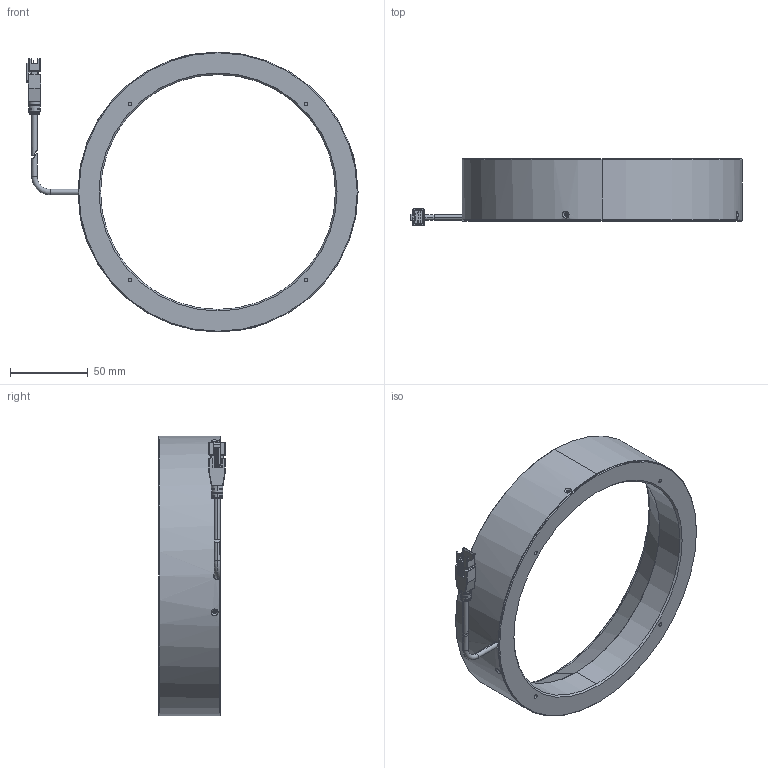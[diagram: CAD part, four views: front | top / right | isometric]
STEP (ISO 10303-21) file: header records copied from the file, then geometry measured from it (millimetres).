
FILE_DESCRIPTION (( 'STEP AP203' ), '1' );
FILE_NAME ('CST-FRS180-¼òÒ×3DÍ¼.STEP', '2021-07-21T02:16:28', ( '' ), ( '' ), 'SwSTEP 2.0', 'SolidWorks 2018', '' );
FILE_SCHEMA (( 'CONFIG_CONTROL_DESIGN' ));
Length unit declared in the file: millimetre
Products named in the file (1): CST-FRS180-潠眢3D芞
Bounding box: 213.43 x 42.85 x 180 mm (x, y, z)
Volume: 185478.6 mm3; surface area: 134671.8 mm2
Topology: 6 solids, 6 shells, 330 faces, 815 edges, 495 vertices
Faces by surface type: plane 148, cylinder 113, cone 32, bspline 29, torus 8
Entity records: 10999 total; most frequent: CARTESIAN_POINT 3295, ORIENTED_EDGE 1582, DIRECTION 1582, EDGE_CURVE 791, AXIS2_PLACEMENT_3D 564, VERTEX_POINT 495, LINE 454, VECTOR 454
